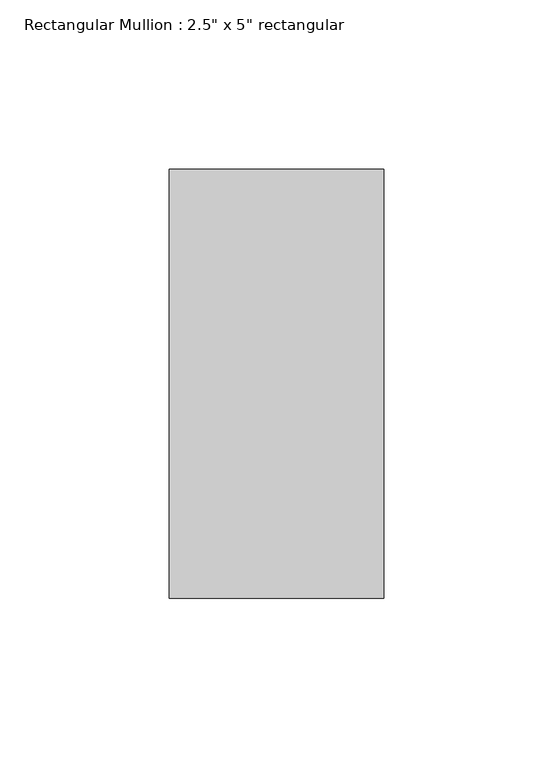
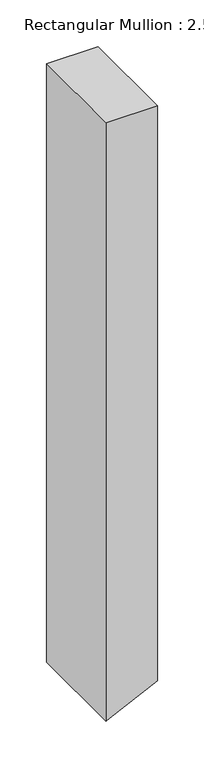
"""IFC4 building model written with IfcOpenShell, lengths in millimetres: member geometry."""

from ifc_helpers import new_model, si_unit, frame, origin, place, context, project, spatial, circle_curve, source, transform, mapped, element, save
from ifc_brep_helpers import plane_surface, cylinder_surface, advanced_brep


def member_8e57c6d7(model_context):
    return source(origin(), model_context, "Body", "AdvancedBrep", [
        advanced_brep(
        [(31.75, 63.5, 0.0), (-31.75, 63.5, 0.0), (-31.75, -63.5, 0.0), (31.75, -63.5, 0.0), (31.75, 63.5, -750.9083357), (-27.2141874, 63.5, -779.4869154), (-31.75, 63.5, -781.634866), (-31.75, -63.5, -781.634866), (-27.2141874, -63.5, -779.4869154), (31.75, -63.5, -750.9083357)],
        [
            (0, 1),
            (1, 2),
            (2, 3),
            (3, 0),
            (0, 4),
            (4, 5, circle_curve(frame((-1698.1714284, 63.5, 2743.2), z_axis=(0.0, 1.0, 0.0), x_axis=(0.7142857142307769, 0.0, -0.6998542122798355)), 3898.9)),
            (5, 6, circle_curve(frame((-1698.1714284, 63.5, 2743.2), z_axis=(0.0, 1.0, 0.0), x_axis=(0.4285714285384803, 0.0, -0.90350790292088)), 3898.9)),
            (6, 1),
            (6, 7),
            (7, 2),
            (7, 8, circle_curve(frame((-1698.1714284, -63.5, 2743.2), z_axis=(0.0, -1.0, 0.0), x_axis=(0.4285714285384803, 0.0, -0.90350790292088)), 3898.9)),
            (8, 9, circle_curve(frame((-1698.1714284, -63.5, 2743.2), z_axis=(0.0, -1.0, 0.0), x_axis=(0.7142857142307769, 0.0, -0.6998542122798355)), 3898.9)),
            (9, 3),
            (9, 4),
            (8, 5),
        ],
        [
            plane_surface(frame((0.0, -70.9951583, 0.0), z_axis=(0.0, 0.0, 1.0), x_axis=(-1.0, 0.0, 0.0))),
            plane_surface(frame((31.75, 63.5, 0.0), z_axis=(0.0, 1.0, 0.0), x_axis=(0.0, 0.0, -1.0))),
            plane_surface(frame((-31.75, 63.5, 0.0), z_axis=(-1.0, 0.0, 0.0), x_axis=(0.0, 0.0, -1.0))),
            plane_surface(frame((-31.75, -63.5, 0.0), z_axis=(0.0, -1.0, 0.0), x_axis=(0.0, 0.0, -1.0))),
            plane_surface(frame((31.75, -63.5, 0.0), z_axis=(1.0, 0.0, 0.0), x_axis=(0.0, 0.0, -1.0))),
            cylinder_surface(frame((-1698.1714284, 0.0, 2743.2), z_axis=(0.0, 1.0, 0.0), x_axis=(0.7142857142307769, 0.0, -0.6998542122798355)), 3898.9),
            cylinder_surface(frame((-1698.1714284, 0.0, 2743.2), z_axis=(0.0, 1.0, 0.0), x_axis=(0.4285714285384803, 0.0, -0.90350790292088)), 3898.9),
        ],
        [
            (0, [[1, 2, 3, 4]]),
            (1, [[-1, 5, 6, 7, 8]]),
            (2, [[-2, -8, 9, 10]]),
            (3, [[-3, -10, 11, 12, 13]]),
            (4, [[-4, -13, 14, -5]]),
            (5, [[-14, -12, 15, -6]]),
            (6, [[-11, -9, -7, -15]]),
        ],
    ),
    ])


if __name__ == "__main__":
    model = new_model("IFC4")
    model_context = context("Model", 3, world=origin())
    ifc_project = project(units=[si_unit("LENGTHUNIT", "METRE", prefix="MILLI")], contexts=[model_context])
    site = spatial("IfcSite", under=ifc_project)
    building = spatial("IfcBuilding", under=site)
    placement = place(None, origin())
    member_shape = member_8e57c6d7(model_context)
    element("IfcMember", 1, ObjectType="Rectangular Mullion : 2.5\" x 5\" rectangular", at=placement, inside=building, context=model_context, shape_type="MappedRepresentation", body=[
        mapped(member_shape, transform((0.0, 0.0, 0.0), x_axis=(1.0, 0.0, 0.0), y_axis=(0.0, 1.0, 0.0), z_axis=(0.0, 0.0, 1.0))),
    ])
    save(model, "model.ifc")
